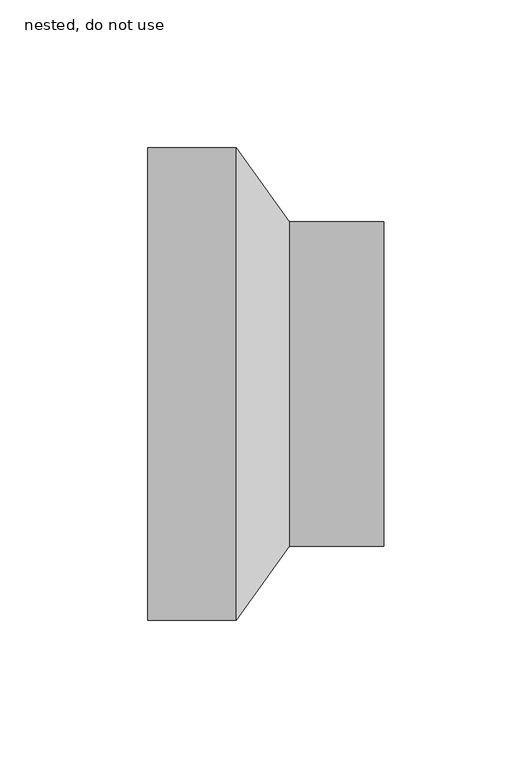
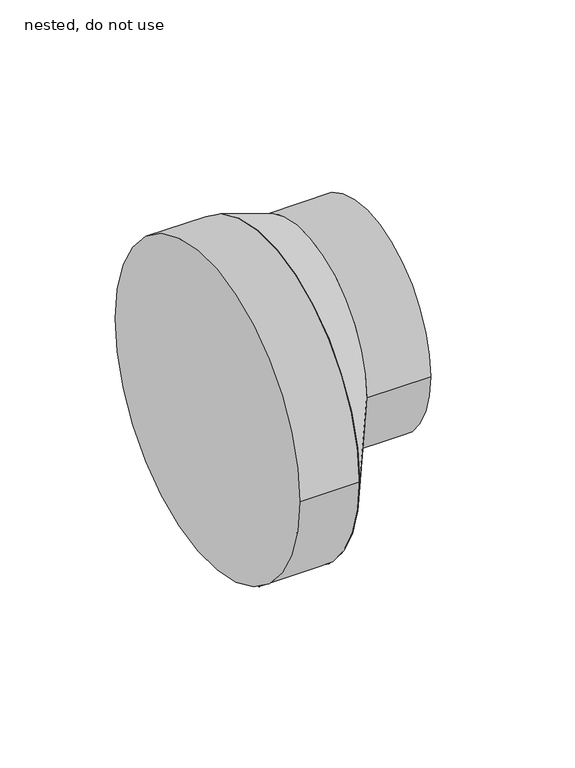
"""IFC4 building model written with IfcOpenShell, lengths in millimetres: pipe fitting geometry, NLRS_52_PIF_UN_HDPE reducer -SH_Akatherm : nested, do not use."""

from ifc_helpers import new_model, si_unit, point, frame, frame_2d, origin, origin_2d, place, context, project, spatial, circle_curve, trimmed, segment, composite_curve, outline, extrude, source, transform, mapped, element, save
from ifc_brep_helpers import plane_surface, spline_surface, advanced_brep


def nested_do_not_use_0499a160(model_context):
    return source(origin(), model_context, "Body", "SolidModel", [
        advanced_brep(
        [(8.0, -55.0, 23.0), (8.0, 55.0, 23.0), (-10.0, -80.0, 0.0), (-10.0, 80.0, 0.0)],
        [
            (0, 1, circle_curve(frame((8.0, 0.0, 23.0), z_axis=(1.0, 0.0, 0.0), x_axis=(0.0, 1.0, 0.0)), 55.0)),
            (1, 0, circle_curve(frame((8.0, 0.0, 23.0), z_axis=(1.0, 0.0, 0.0), x_axis=(0.0, 1.0, 0.0)), 55.0)),
            (2, 3, circle_curve(frame((-10.0, 0.0, 0.0), z_axis=(-1.0, 0.0, 0.0), x_axis=(0.0, 1.0, 0.0)), 80.0)),
            (3, 2, circle_curve(frame((-10.0, 0.0, 0.0), z_axis=(-1.0, 0.0, 0.0), x_axis=(0.0, 1.0, 0.0)), 80.0)),
            (3, 1),
            (0, 2),
        ],
        [
            plane_surface(frame((8.0, 0.0, 23.0), z_axis=(1.0, 0.0, 0.0), x_axis=(0.0, 0.0, -1.0))),
            plane_surface(frame((-10.0, 0.0, 0.0), z_axis=(-1.0, 0.0, 0.0), x_axis=(0.0, 0.0, -1.0))),
            spline_surface(2, 1, [[(-10.0, -80.0, 0.0), (8.0, -55.0, 23.0)], [(-10.0, -80.0, -80.0), (8.0, -55.0, -32.0)], [(-10.0, 0.0, -80.0), (8.0, 0.0, -32.0)], [(-10.0, 80.0, -80.0), (8.0, 55.0, -32.0)], [(-10.0, 80.0, 0.0), (8.0, 55.0, 23.0)]], [3, 2, 3], [2, 2], [0.0, 1.0, 2.0], [0.0, 1.0], weights=[[1.0, 1.0], [0.7071067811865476, 0.7071067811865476], [1.0, 1.0], [0.7071067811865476, 0.7071067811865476], [1.0, 1.0]]),
            spline_surface(2, 1, [[(-10.0, 80.0, 0.0), (8.0, 55.0, 23.0)], [(-10.0, 80.0, 80.0), (8.0, 55.0, 78.0)], [(-10.0, 0.0, 80.0), (8.0, 0.0, 78.0)], [(-10.0, -80.0, 80.0), (8.0, -55.0, 78.0)], [(-10.0, -80.0, 0.0), (8.0, -55.0, 23.0)]], [3, 2, 3], [2, 2], [0.0, 1.0, 2.0], [0.0, 1.0], weights=[[1.0, 1.0], [0.7071067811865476, 0.7071067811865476], [1.0, 1.0], [0.7071067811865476, 0.7071067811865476], [1.0, 1.0]]),
        ],
        [
            (0, [[1, 2]]),
            (1, [[3, 4]]),
            (2, [[-4, 5, -1, 6]]),
            (3, [[-3, -6, -2, -5]]),
        ],
    ),
        extrude(outline(composite_curve([segment(trimmed(circle_curve(frame_2d((0.0, 23.0)), 55.0), [point((-55.0, 23.0))], [point((55.0, 23.0))], False, "CARTESIAN"), True, "CONTINUOUS"), segment(trimmed(circle_curve(frame_2d((0.0, 23.0)), 55.0), [point((55.0, 23.0))], [point((-55.0, 23.0))], False, "CARTESIAN"), True, "CONTINUOUS")], self_intersect=False)), frame((8.0, 0.0, 0.0), z_axis=(1.0, 0.0, 0.0), x_axis=(0.0, 1.0, 0.0)), (0.0, 0.0, 1.0), 32.0),
        extrude(outline(composite_curve([segment(trimmed(circle_curve(origin_2d(), 80.0), [point((-80.0, 0.0))], [point((80.0, 0.0))], False, "CARTESIAN"), True, "CONTINUOUS"), segment(trimmed(circle_curve(origin_2d(), 80.0), [point((80.0, 0.0))], [point((-80.0, 0.0))], False, "CARTESIAN"), True, "CONTINUOUS")], self_intersect=False)), frame((-40.0, 0.0, 0.0), z_axis=(1.0, 0.0, 0.0), x_axis=(0.0, 1.0, 0.0)), (0.0, 0.0, 1.0), 30.0),
    ])


if __name__ == "__main__":
    model = new_model("IFC4")
    model_context = context("Model", 3, world=origin())
    ifc_project = project(units=[si_unit("LENGTHUNIT", "METRE", prefix="MILLI")], contexts=[model_context])
    site = spatial("IfcSite", under=ifc_project)
    building = spatial("IfcBuilding", under=site)
    placement = place(None, origin())
    nested_do_not_use_shape = nested_do_not_use_0499a160(model_context)
    element("IfcPipeFitting", 1, ObjectType="NLRS_52_PIF_UN_HDPE reducer -SH_Akatherm : nested, do not use", at=placement, inside=building, context=model_context, shape_type="MappedRepresentation", body=[
        mapped(nested_do_not_use_shape, transform((0.0, 0.0, 0.0), x_axis=(1.0, 0.0, 0.0), y_axis=(0.0, 1.0, 0.0), z_axis=(0.0, 0.0, 1.0))),
    ])
    save(model, "model.ifc")
